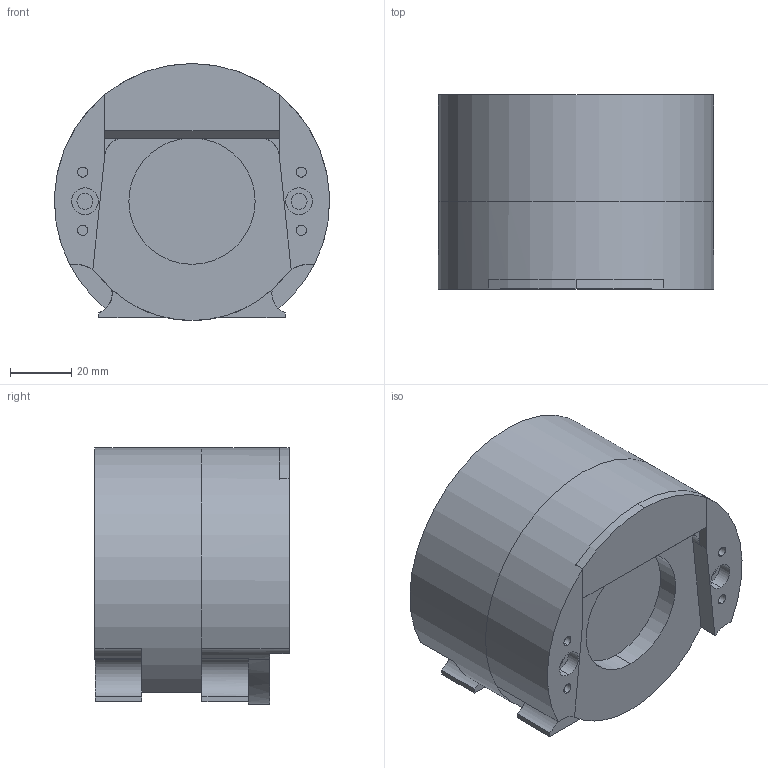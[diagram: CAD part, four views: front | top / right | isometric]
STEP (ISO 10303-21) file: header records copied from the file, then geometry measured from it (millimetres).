
FILE_DESCRIPTION (( 'STEP AP214' ), '1' );
FILE_NAME ('G4-50-BFM.STEP', '2017-08-25T17:25:20', ( '' ), ( '' ), 'SwSTEP 2.0', 'SolidWorks 2017', '' );
FILE_SCHEMA (( 'AUTOMOTIVE_DESIGN' ));
Length unit declared in the file: inch
Products named in the file (1): G4-50-BFM
Bounding box: 89.97 x 63.5 x 84 mm (x, y, z)
Volume: 325469.4 mm3; surface area: 62886.9 mm2
Topology: 2 solids, 2 shells, 158 faces, 389 edges, 254 vertices
Faces by surface type: cylinder 78, plane 78, cone 2
Entity records: 4776 total; most frequent: DIRECTION 887, CARTESIAN_POINT 802, ORIENTED_EDGE 778, EDGE_CURVE 389, AXIS2_PLACEMENT_3D 339, VERTEX_POINT 254, LINE 209, VECTOR 209
